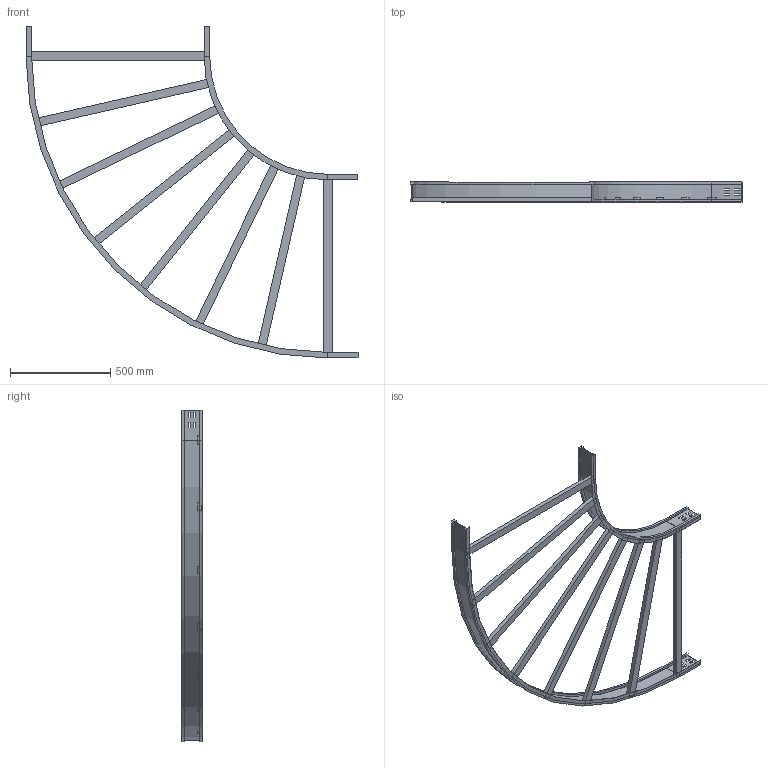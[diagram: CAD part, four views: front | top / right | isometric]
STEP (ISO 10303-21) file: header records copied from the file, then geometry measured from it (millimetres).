
FILE_DESCRIPTION (( 'STEP AP214' ), '1' );
FILE_NAME ('10S6D900.step', '2025-02-21T16:09:51', ( '' ), ( '' ), 'SwSTEP 2.0', 'SolidWorks 2023', '' );
FILE_SCHEMA (( 'AUTOMOTIVE_DESIGN' ));
Length unit declared in the file: millimetre
Products named in the file (4): LONGH.INTERNO 90°_H100_R600; LONGH.ESTERNO 90°_H100_R600+900; TRAVERSINO_900; 10S6D900
Assembly tree (10 placements, depth 2):
  10S6D900
    LONGH.INTERNO 90°_H100_R600
    LONGH.ESTERNO 90°_H100_R600+900
    TRAVERSINO_900  x8
Bounding box: 1659 x 100 x 1659 mm (x, y, z)
Volume: 7874431 mm3; surface area: 2035714.7 mm2
Topology: 10 solids, 10 shells, 188 faces, 456 edges, 288 vertices
Faces by surface type: plane 176, cylinder 12
Entity records: 4517 total; most frequent: CARTESIAN_POINT 763, ORIENTED_EDGE 744, DIRECTION 714, EDGE_CURVE 372, LINE 348, VECTOR 348, VERTEX_POINT 232, AXIS2_PLACEMENT_3D 183
